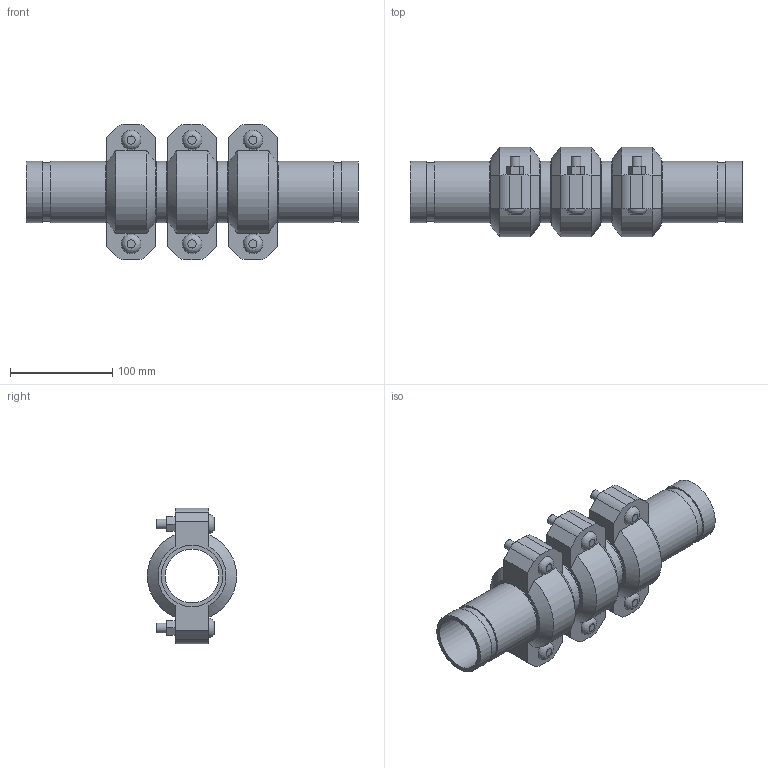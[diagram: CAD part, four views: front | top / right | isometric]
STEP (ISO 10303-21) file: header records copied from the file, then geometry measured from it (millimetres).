
FILE_DESCRIPTION(/* description */ ('VIC SS EXPANSION JOINT 3 COUPLINGS NEUTRAL STYLE 155P (OGS) (POTABLE WATER) ','CAx-IF Rec.Pracs.---Representation and Presentation of Product Manufacturing Information (PMI)---4.0---2014-10-13'),/* implementation_level */ '2;1');
FILE_NAME(/* name */ 'C:\Users\kkamble\AppData\Roaming\Autodesk\ApplicationPlugins\Victaulic.Temp\A227\Victaulic_SS_Expansion Joint_Neutral_3 Couplings_Style 155P (OGS)-Potable Water_3 Coup_Neut_2 (50).stp',/* time_stamp */ '2021-07-16T16:32:06+05:00',/* author */ ('kkamble'),/* organization */ ('Victaulic'),/* preprocessor_version */ 'ST-DEVELOPER v17.2',/* originating_system */ 'Autodesk Inventor 2019',/* authorisation */ '');
FILE_SCHEMA (('AP242_MANAGED_MODEL_BASED_3D_ENGINEERING_MIM_LF { 1 0 10303 442 1 1 4 }'));
Length unit declared in the file: inch
Products named in the file (4): 155P-02.0; Nipple-02.0; Nipple-02.0_1; 075-02.0
Assembly tree (7 placements, depth 2):
  155P-02.0
    Nipple-02.0  x2
    Nipple-02.0_1  x2
    075-02.0  x3
Bounding box: 324.61 x 87.12 x 132.59 mm (x, y, z)
Volume: 804044.7 mm3; surface area: 241637.5 mm2
Topology: 7 solids, 13 shells, 219 faces, 519 edges, 366 vertices
Faces by surface type: plane 132, cylinder 69, cone 12, bspline 6
Full cylindrical faces by diameter (mm): 9.525 x12, 11.43 x6, 52.502 x4, 53.975 x3, 57.15 x8, 60.325 x18
Entity records: 2769 total; most frequent: CARTESIAN_POINT 491, DIRECTION 457, ORIENTED_EDGE 386, EDGE_CURVE 193, AXIS2_PLACEMENT_3D 182, VERTEX_POINT 138, EDGE_LOOP 107, LINE 93
